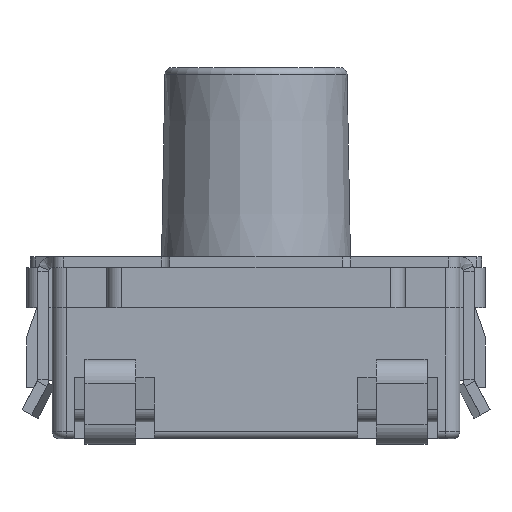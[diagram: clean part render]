
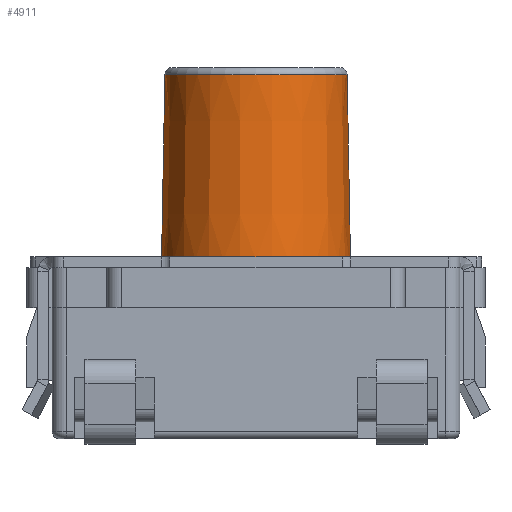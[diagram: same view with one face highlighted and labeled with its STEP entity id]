
A CAD part, left-side view. The second image highlights one B-rep face of the part: STEP entity #4911.
In plain terms, the highlighted conical face has half-angle 1.042 degrees and reference radius 1.3 mm.
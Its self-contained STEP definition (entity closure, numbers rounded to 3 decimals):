
#4550 = VERTEX_POINT ( 'NONE', #14843 ) ;
#4644 = EDGE_CURVE ( 'NONE', #4645, #4550, #15127, .T. ) ;
#4645 = VERTEX_POINT ( 'NONE', #15122 ) ;
#4689 = EDGE_CURVE ( 'NONE', #4986, #4645, #15171, .T. ) ;
#4770 = EDGE_CURVE ( 'NONE', #4987, #4550, #15318, .T. ) ;
#4832 = EDGE_LOOP ( 'NONE', ( #4833, #4834, #4836, #4890 ) ) ;
#4833 = ORIENTED_EDGE ( 'NONE', *, *, #4770, .F. ) ;
#4834 = ORIENTED_EDGE ( 'NONE', *, *, #4835, .T. ) ;
#4835 = EDGE_CURVE ( 'NONE', #4987, #4986, #15428, .T. ) ;
#4836 = ORIENTED_EDGE ( 'NONE', *, *, #4689, .T. ) ;
#4890 = ORIENTED_EDGE ( 'NONE', *, *, #4644, .T. ) ;
#4911 = ADVANCED_FACE ( 'NONE', ( #15647 ), #15630, .T. ) ;
#4986 = VERTEX_POINT ( 'NONE', #15849 ) ;
#4987 = VERTEX_POINT ( 'NONE', #15848 ) ;
#14843 = CARTESIAN_POINT ( 'NONE',  ( 0., 2.448, 1.298 ) ) ;
#15122 = CARTESIAN_POINT ( 'NONE',  ( 0., 2.448, -1.298 ) ) ;
#15123 = DIRECTION ( 'NONE',  ( 0., 0., 1. ) ) ;
#15124 = DIRECTION ( 'NONE',  ( 0., 1., 0. ) ) ;
#15125 = CARTESIAN_POINT ( 'NONE',  ( 0., 2.448, 0. ) ) ;
#15126 = AXIS2_PLACEMENT_3D ( 'NONE', #15125, #15124, #15123 ) ;
#15127 = CIRCLE ( 'NONE', #15126, 1.298 ) ;
#15168 = DIRECTION ( 'NONE',  ( 0., -1., -0.018 ) ) ;
#15169 = VECTOR ( 'NONE', #15168, 1000. ) ;
#15170 = CARTESIAN_POINT ( 'NONE',  ( 0., 2.35, -1.3 ) ) ;
#15171 = LINE ( 'NONE', #15170, #15169 ) ;
#15315 = DIRECTION ( 'NONE',  ( 0., -1., 0.018 ) ) ;
#15316 = VECTOR ( 'NONE', #15315, 1000. ) ;
#15317 = CARTESIAN_POINT ( 'NONE',  ( 0., 2.35, 1.3 ) ) ;
#15318 = LINE ( 'NONE', #15317, #15316 ) ;
#15424 = DIRECTION ( 'NONE',  ( 0., 0., 1. ) ) ;
#15425 = DIRECTION ( 'NONE',  ( 0., -1., 0. ) ) ;
#15426 = CARTESIAN_POINT ( 'NONE',  ( 0., 5.002, 0. ) ) ;
#15427 = AXIS2_PLACEMENT_3D ( 'NONE', #15426, #15425, #15424 ) ;
#15428 = CIRCLE ( 'NONE', #15427, 1.252 ) ;
#15628 = DIRECTION ( 'NONE',  ( 0., -1., 0. ) ) ;
#15629 = AXIS2_PLACEMENT_3D ( 'NONE', #15632, #15628, #15685 ) ;
#15630 = CONICAL_SURFACE ( 'NONE', #15629, 1.3, 0.018 ) ;
#15632 = CARTESIAN_POINT ( 'NONE',  ( 0., 2.35, 0. ) ) ;
#15647 = FACE_OUTER_BOUND ( 'NONE', #4832, .T. ) ;
#15685 = DIRECTION ( 'NONE',  ( 0., 0., -1. ) ) ;
#15848 = CARTESIAN_POINT ( 'NONE',  ( 0., 5.002, 1.252 ) ) ;
#15849 = CARTESIAN_POINT ( 'NONE',  ( 0., 5.002, -1.252 ) ) ;
